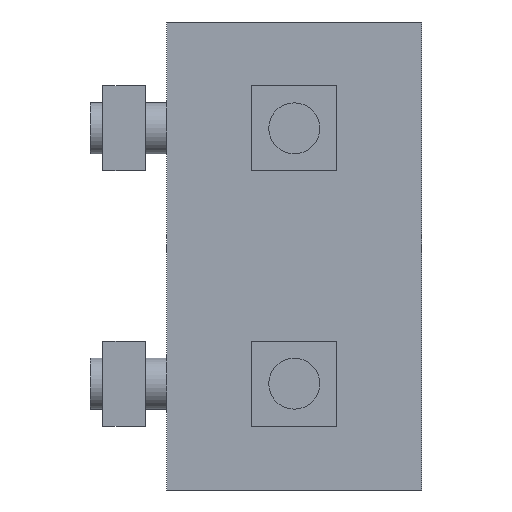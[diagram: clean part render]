
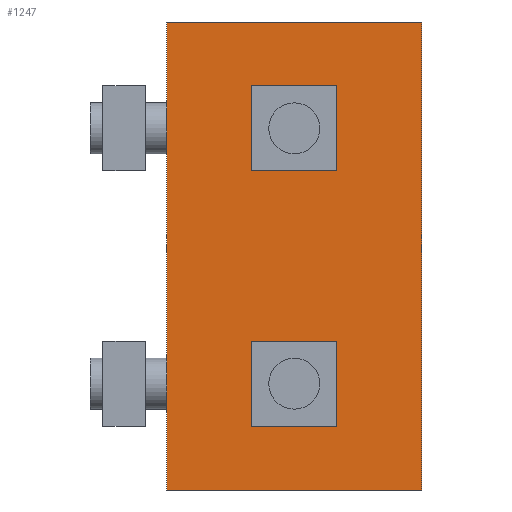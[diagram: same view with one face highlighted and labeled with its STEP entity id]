
A CAD part, front view. The second image highlights one B-rep face of the part: STEP entity #1247.
In plain terms, the highlighted planar face has unit normal (0, -1, 0).
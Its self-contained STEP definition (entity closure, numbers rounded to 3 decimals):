
#348=CARTESIAN_POINT('',(18.3,0.,-15.));
#349=VERTEX_POINT('',#348);
#350=CARTESIAN_POINT('',(15.,0.,-15.));
#351=DIRECTION('',(0.0,1.0,0.0));
#352=DIRECTION('',(-1.0,0.0,0.0));
#353=AXIS2_PLACEMENT_3D('',#350,#351,#352);
#354=CIRCLE('',#353,3.3);
#355=EDGE_CURVE('',#349,#349,#354,.T.);
#891=CARTESIAN_POINT('',(18.3,0.,15.));
#892=VERTEX_POINT('',#891);
#893=CARTESIAN_POINT('',(15.,0.,15.));
#894=DIRECTION('',(0.0,1.0,0.0));
#895=DIRECTION('',(-1.0,0.0,0.0));
#896=AXIS2_PLACEMENT_3D('',#893,#894,#895);
#897=CIRCLE('',#896,3.3);
#898=EDGE_CURVE('',#892,#892,#897,.T.);
#1058=CARTESIAN_POINT('',(0.0,0.0,-27.5));
#1059=VERTEX_POINT('',#1058);
#1060=CARTESIAN_POINT('',(30.,0.,-27.5));
#1061=VERTEX_POINT('',#1060);
#1062=CARTESIAN_POINT('',(0.0,0.0,-27.5));
#1063=DIRECTION('',(1.0,0.0,0.0));
#1064=VECTOR('',#1063,30.);
#1065=LINE('',#1062,#1064);
#1066=EDGE_CURVE('',#1059,#1061,#1065,.T.);
#1199=CARTESIAN_POINT('',(30.,0.,27.5));
#1200=VERTEX_POINT('',#1199);
#1207=CARTESIAN_POINT('',(30.,0.,27.5));
#1208=DIRECTION('',(0.0,0.0,-1.0));
#1209=VECTOR('',#1208,55.);
#1210=LINE('',#1207,#1209);
#1211=EDGE_CURVE('',#1200,#1061,#1210,.T.);
#1218=CARTESIAN_POINT('',(30.,0.,0.0));
#1219=DIRECTION('',(0.0,-1.0,0.0));
#1220=DIRECTION('',(0.0,0.0,-1.0));
#1221=AXIS2_PLACEMENT_3D('',#1218,#1219,#1220);
#1222=PLANE('',#1221);
#1223=CARTESIAN_POINT('',(0.0,0.0,27.5));
#1224=VERTEX_POINT('',#1223);
#1225=CARTESIAN_POINT('',(30.,0.,27.5));
#1226=DIRECTION('',(-1.0,0.0,0.0));
#1227=VECTOR('',#1226,30.);
#1228=LINE('',#1225,#1227);
#1229=EDGE_CURVE('',#1200,#1224,#1228,.T.);
#1230=ORIENTED_EDGE('',*,*,#1229,.T.);
#1231=CARTESIAN_POINT('',(0.0,0.0,-27.5));
#1232=DIRECTION('',(0.0,0.0,1.0));
#1233=VECTOR('',#1232,55.);
#1234=LINE('',#1231,#1233);
#1235=EDGE_CURVE('',#1059,#1224,#1234,.T.);
#1236=ORIENTED_EDGE('',*,*,#1235,.F.);
#1237=ORIENTED_EDGE('',*,*,#1066,.T.);
#1238=ORIENTED_EDGE('',*,*,#1211,.F.);
#1239=EDGE_LOOP('',(#1230,#1236,#1237,#1238));
#1240=FACE_OUTER_BOUND('',#1239,.T.);
#1241=ORIENTED_EDGE('',*,*,#355,.T.);
#1242=EDGE_LOOP('',(#1241));
#1243=FACE_BOUND('',#1242,.T.);
#1244=ORIENTED_EDGE('',*,*,#898,.T.);
#1245=EDGE_LOOP('',(#1244));
#1246=FACE_BOUND('',#1245,.T.);
#1247=ADVANCED_FACE('',(#1240,#1243,#1246),#1222,.T.);
